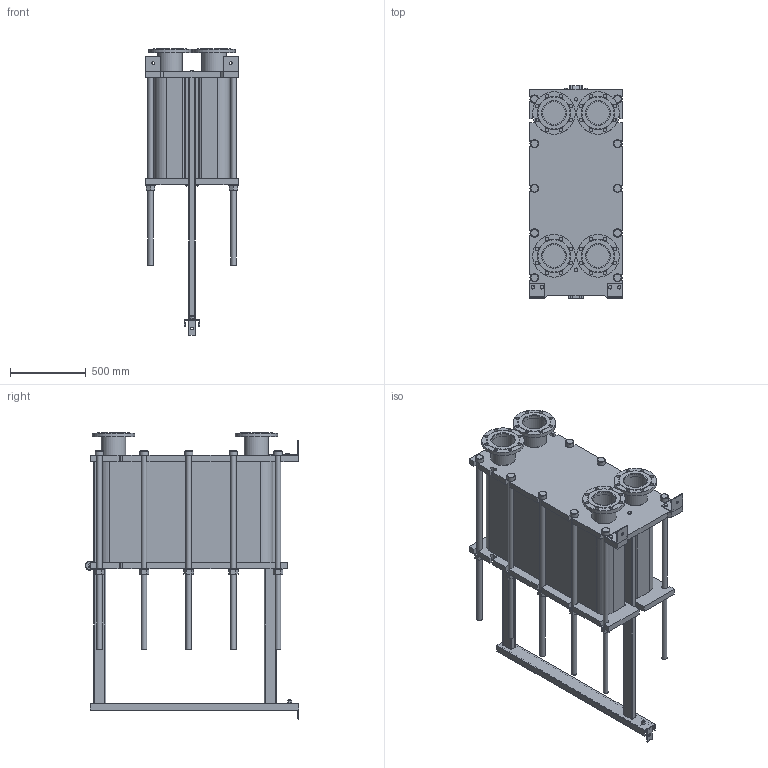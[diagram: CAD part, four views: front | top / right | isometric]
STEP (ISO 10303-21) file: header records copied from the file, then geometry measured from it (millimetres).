
FILE_DESCRIPTION(/* description */ (''),/* implementation_level */ '2;1');
FILE_NAME(/* name */ 'C:\Users\zhuro\Desktop\ENCO\TO\ЭН-041\ЭН-0,5-041-193-1.stp',/* time_stamp */ '2022-06-06T11:05:54+03:00',/* author */ ('zhuro'),/* organization */ (''),/* preprocessor_version */ 'ST-DEVELOPER v18.1',/* originating_system */ 'Autodesk Inventor 2022',/* authorisation */ '');
FILE_SCHEMA (('AUTOMOTIVE_DESIGN { 1 0 10303 214 3 1 1 }'));
Length unit declared in the file: millimetre
Products named in the file (1): ЭН-0,5-041-193-1
Bounding box: 610 x 1406.5 x 1887.5 mm (x, y, z)
Volume: 461507361.9 mm3; surface area: 11075084.9 mm2
Topology: 52 solids, 52 shells, 711 faces, 1696 edges, 1094 vertices
Faces by surface type: plane 487, cylinder 177, cone 41, torus 6
Full cylindrical faces by diameter (mm): 8 x4, 10 x2, 16 x8, 18 x3, 22 x32, 36 x24, 50 x1, 54 x10, 60 x12, 151 x4, 161 x8, 280 x4
Entity records: 22667 total; most frequent: CARTESIAN_POINT 5230, DIRECTION 3644, ORIENTED_EDGE 3392, EDGE_CURVE 1696, AXIS2_PLACEMENT_3D 1272, LINE 1100, VECTOR 1100, VERTEX_POINT 1094
